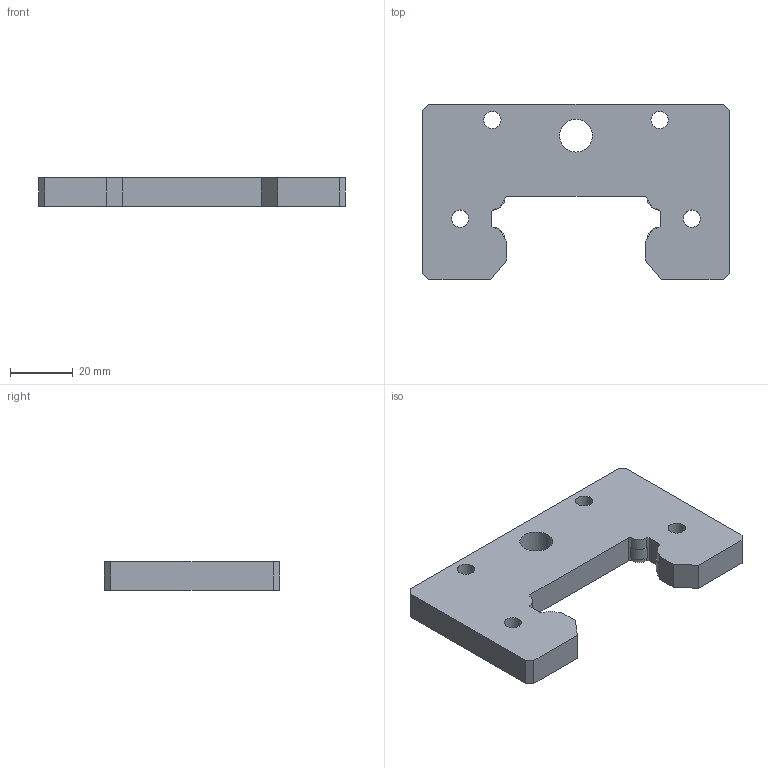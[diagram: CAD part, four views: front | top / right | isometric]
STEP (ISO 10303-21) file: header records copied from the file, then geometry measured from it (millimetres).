
FILE_DESCRIPTION (( 'STEP AP203' ), '1' );
FILE_NAME ('MF 55A.STEP', '2014-12-02T23:41:55', ( 'john' ), ( '' ), 'SwSTEP 2.0', 'SolidWorks 2013', '' );
FILE_SCHEMA (( 'CONFIG_CONTROL_DESIGN' ));
Length unit declared in the file: millimetre
Products named in the file (1): MF 55A
Bounding box: 98 x 56 x 9 mm (x, y, z)
Volume: 36098.1 mm3; surface area: 12184.1 mm2
Topology: 1 solids, 1 shells, 51 faces, 147 edges, 98 vertices
Faces by surface type: plane 34, cylinder 17
Full cylindrical faces by diameter (mm): 5.5 x4, 10.5 x1
Entity records: 1747 total; most frequent: CARTESIAN_POINT 292, ORIENTED_EDGE 284, DIRECTION 280, EDGE_CURVE 142, VECTOR 108, LINE 108, VERTEX_POINT 98, AXIS2_PLACEMENT_3D 86
